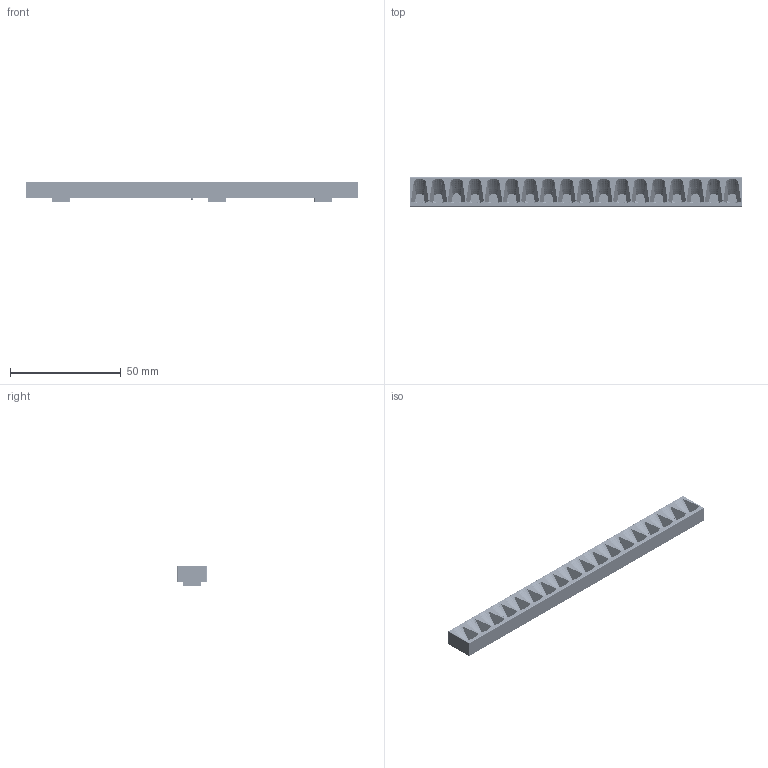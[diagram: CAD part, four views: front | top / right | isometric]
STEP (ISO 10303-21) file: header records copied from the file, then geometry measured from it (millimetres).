
FILE_DESCRIPTION(/* description */ ('This is a sample STEP configuration'),/* implementation_level */ '2;1');
FILE_NAME(/* name */ 'C:\_JPTemp\Daten\708-003013xxxxxx _Simple.ipt_Rev_00.stp',/* time_stamp */ '2022-07-22T10:48:10+02:00',/* author */ ('powerJobs'),/* organization */ ('coolOrange'),/* preprocessor_version */ 'ST-DEVELOPER v18.1',/* originating_system */ 'Autodesk Inventor 2020',/* authorisation */ '');
FILE_SCHEMA (('AUTOMOTIVE_DESIGN { 1 0 10303 214 3 1 1 }'));
Products named in the file (1): ENG000026416
Bounding box: 150 x 13.31 x 9.02 mm (x, y, z)
Volume: 7226.3 mm3; surface area: 13330.2 mm2
Topology: 2 solids, 2 shells, 22769 faces, 50295 edges, 27548 vertices
Faces by surface type: bspline 21088, plane 913, cylinder 536, sphere 216, cone 10, torus 6
Full cylindrical faces by diameter (mm): 0.9 x1, 1.48 x1, 1.7 x2, 2 x1, 2.2 x2, 2.65 x2, 4.3 x2
Entity records: 1243102 total; most frequent: CARTESIAN_POINT 904444, ORIENTED_EDGE 100588, EDGE_CURVE 50294, B_SPLINE_CURVE_WITH_KNOTS 28300, VERTEX_POINT 27548, EDGE_LOOP 22890, STYLED_ITEM 22771, FACE_OUTER_BOUND 22769
